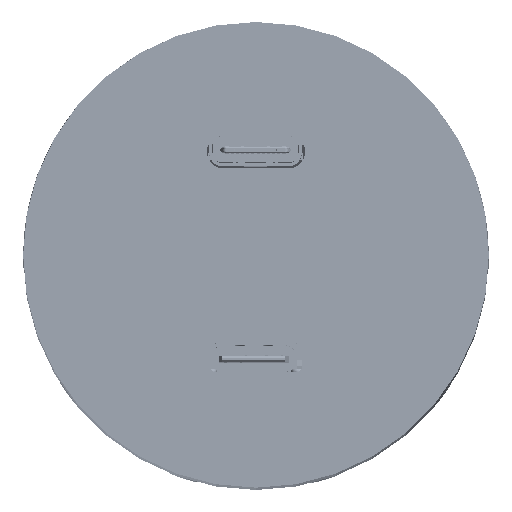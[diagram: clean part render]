
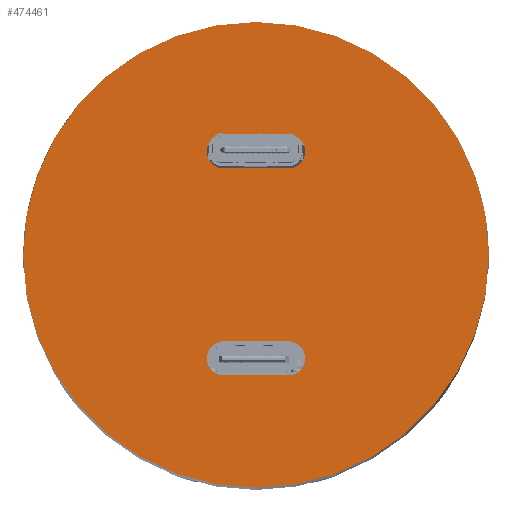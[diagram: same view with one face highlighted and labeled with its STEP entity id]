
A CAD part, top view. The second image highlights one B-rep face of the part: STEP entity #474461.
In plain terms, the highlighted planar face has unit normal (0, 0, 1).
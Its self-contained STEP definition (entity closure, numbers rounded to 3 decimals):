
#1333 = EDGE_LOOP ( 'NONE', ( #45374, #473580 ) ) ;
#3378 = EDGE_CURVE ( 'NONE', #88861, #44773, #229803, .T. ) ;
#4240 = AXIS2_PLACEMENT_3D ( 'NONE', #134832, #243649, #215743 ) ;
#6730 = DIRECTION ( 'NONE',  ( 1., 0., 0. ) ) ;
#9607 = CARTESIAN_POINT ( 'NONE',  ( -3.1, -10., 80. ) ) ;
#10325 = CARTESIAN_POINT ( 'NONE',  ( 3.1, -11.65, 80. ) ) ;
#10542 = DIRECTION ( 'NONE',  ( 1., 0., 0. ) ) ;
#18189 = VECTOR ( 'NONE', #95882, 1000. ) ;
#19918 = ORIENTED_EDGE ( 'NONE', *, *, #71815, .F. ) ;
#23107 = ORIENTED_EDGE ( 'NONE', *, *, #400628, .F. ) ;
#34370 = CARTESIAN_POINT ( 'NONE',  ( 0., 0., 80. ) ) ;
#35070 = ORIENTED_EDGE ( 'NONE', *, *, #88401, .T. ) ;
#44773 = VERTEX_POINT ( 'NONE', #463721 ) ;
#45374 = ORIENTED_EDGE ( 'NONE', *, *, #256646, .T. ) ;
#46226 = AXIS2_PLACEMENT_3D ( 'NONE', #323500, #90805, #247625 ) ;
#47104 = VERTEX_POINT ( 'NONE', #191374 ) ;
#53379 = DIRECTION ( 'NONE',  ( 0., 0., 1. ) ) ;
#58003 = LINE ( 'NONE', #442500, #18189 ) ;
#65245 = EDGE_CURVE ( 'NONE', #274740, #292082, #493456, .T. ) ;
#68090 = DIRECTION ( 'NONE',  ( 0., 0., -1. ) ) ;
#71815 = EDGE_CURVE ( 'NONE', #167610, #447519, #176568, .T. ) ;
#84865 = DIRECTION ( 'NONE',  ( 1., 0., 0. ) ) ;
#87667 = VERTEX_POINT ( 'NONE', #280114 ) ;
#88401 = EDGE_CURVE ( 'NONE', #397462, #274740, #346927, .T. ) ;
#88861 = VERTEX_POINT ( 'NONE', #234234 ) ;
#89375 = AXIS2_PLACEMENT_3D ( 'NONE', #181883, #68090, #338708 ) ;
#90805 = DIRECTION ( 'NONE',  ( 0., 0., 1. ) ) ;
#92324 = CARTESIAN_POINT ( 'NONE',  ( 3.1, 8.35, 80. ) ) ;
#95882 = DIRECTION ( 'NONE',  ( 1., 0., 0. ) ) ;
#102188 = EDGE_LOOP ( 'NONE', ( #396544, #35070, #396032, #411198, #194072 ) ) ;
#108393 = AXIS2_PLACEMENT_3D ( 'NONE', #9607, #239629, #394024 ) ;
#119443 = DIRECTION ( 'NONE',  ( 1., 0., 0. ) ) ;
#132067 = CIRCLE ( 'NONE', #164590, 1.65 ) ;
#134832 = CARTESIAN_POINT ( 'NONE',  ( 0., 0., 80. ) ) ;
#136420 = EDGE_LOOP ( 'NONE', ( #307514, #23107, #153198, #461509, #19918 ) ) ;
#143071 = FACE_BOUND ( 'NONE', #136420, .T. ) ;
#145276 = VERTEX_POINT ( 'NONE', #492861 ) ;
#149177 = AXIS2_PLACEMENT_3D ( 'NONE', #245509, #53379, #10542 ) ;
#153198 = ORIENTED_EDGE ( 'NONE', *, *, #157162, .F. ) ;
#157162 = EDGE_CURVE ( 'NONE', #87667, #255445, #324856, .T. ) ;
#160694 = AXIS2_PLACEMENT_3D ( 'NONE', #204866, #326191, #252762 ) ;
#163278 = LINE ( 'NONE', #92324, #454468 ) ;
#164590 = AXIS2_PLACEMENT_3D ( 'NONE', #353102, #360541, #84865 ) ;
#167610 = VERTEX_POINT ( 'NONE', #215513 ) ;
#176568 = CIRCLE ( 'NONE', #160694, 1.65 ) ;
#181025 = DIRECTION ( 'NONE',  ( 0., 0., 1. ) ) ;
#181883 = CARTESIAN_POINT ( 'NONE',  ( 3.1, -10., 80. ) ) ;
#185985 = FACE_OUTER_BOUND ( 'NONE', #1333, .T. ) ;
#191052 = EDGE_CURVE ( 'NONE', #44773, #397462, #58003, .T. ) ;
#191374 = CARTESIAN_POINT ( 'NONE',  ( 22.5, 0., 80. ) ) ;
#194072 = ORIENTED_EDGE ( 'NONE', *, *, #3378, .T. ) ;
#194772 = CARTESIAN_POINT ( 'NONE',  ( 3.1, -11.65, 80. ) ) ;
#204866 = CARTESIAN_POINT ( 'NONE',  ( 3.1, 10., 80. ) ) ;
#215513 = CARTESIAN_POINT ( 'NONE',  ( 3.1, 8.35, 80. ) ) ;
#215743 = DIRECTION ( 'NONE',  ( 1., 0., 0. ) ) ;
#222135 = CIRCLE ( 'NONE', #4240, 22.5 ) ;
#223946 = EDGE_CURVE ( 'NONE', #292082, #88861, #132067, .T. ) ;
#229803 = CIRCLE ( 'NONE', #108393, 1.65 ) ;
#232114 = CIRCLE ( 'NONE', #46226, 22.5 ) ;
#234234 = CARTESIAN_POINT ( 'NONE',  ( -4.75, -10., 80. ) ) ;
#239629 = DIRECTION ( 'NONE',  ( 0., 0., -1. ) ) ;
#243446 = CARTESIAN_POINT ( 'NONE',  ( -4.75, 10., 80. ) ) ;
#243649 = DIRECTION ( 'NONE',  ( 0., 0., 1. ) ) ;
#245509 = CARTESIAN_POINT ( 'NONE',  ( -3.1, 10., 80. ) ) ;
#247625 = DIRECTION ( 'NONE',  ( 1., 0., 0. ) ) ;
#252762 = DIRECTION ( 'NONE',  ( 1., 0., 0. ) ) ;
#255445 = VERTEX_POINT ( 'NONE', #243446 ) ;
#256646 = EDGE_CURVE ( 'NONE', #145276, #47104, #232114, .T. ) ;
#258207 = CARTESIAN_POINT ( 'NONE',  ( 3.1, 11.65, 80. ) ) ;
#261936 = FACE_BOUND ( 'NONE', #102188, .T. ) ;
#266113 = EDGE_CURVE ( 'NONE', #447519, #87667, #348503, .T. ) ;
#274740 = VERTEX_POINT ( 'NONE', #10325 ) ;
#277962 = AXIS2_PLACEMENT_3D ( 'NONE', #34370, #181025, #119443 ) ;
#280114 = CARTESIAN_POINT ( 'NONE',  ( -3.1, 11.65, 80. ) ) ;
#287304 = DIRECTION ( 'NONE',  ( 0., 0., 1. ) ) ;
#292082 = VERTEX_POINT ( 'NONE', #446941 ) ;
#306140 = DIRECTION ( 'NONE',  ( -1., 0., 0. ) ) ;
#306818 = EDGE_CURVE ( 'NONE', #47104, #145276, #222135, .T. ) ;
#307514 = ORIENTED_EDGE ( 'NONE', *, *, #446999, .F. ) ;
#315828 = AXIS2_PLACEMENT_3D ( 'NONE', #441652, #287304, #370762 ) ;
#323500 = CARTESIAN_POINT ( 'NONE',  ( 0., 0., 80. ) ) ;
#324856 = CIRCLE ( 'NONE', #315828, 1.65 ) ;
#326191 = DIRECTION ( 'NONE',  ( 0., 0., 1. ) ) ;
#335340 = PLANE ( 'NONE',  #277962 ) ;
#338708 = DIRECTION ( 'NONE',  ( 1., 0., 0. ) ) ;
#346927 = CIRCLE ( 'NONE', #89375, 1.65 ) ;
#348503 = LINE ( 'NONE', #258207, #487711 ) ;
#353102 = CARTESIAN_POINT ( 'NONE',  ( -3.1, -10., 80. ) ) ;
#360541 = DIRECTION ( 'NONE',  ( 0., 0., -1. ) ) ;
#367376 = CIRCLE ( 'NONE', #149177, 1.65 ) ;
#370762 = DIRECTION ( 'NONE',  ( 1., 0., 0. ) ) ;
#390680 = CARTESIAN_POINT ( 'NONE',  ( -3.1, 8.35, 80. ) ) ;
#394024 = DIRECTION ( 'NONE',  ( 1., 0., 0. ) ) ;
#396032 = ORIENTED_EDGE ( 'NONE', *, *, #65245, .T. ) ;
#396544 = ORIENTED_EDGE ( 'NONE', *, *, #191052, .T. ) ;
#397462 = VERTEX_POINT ( 'NONE', #412881 ) ;
#400628 = EDGE_CURVE ( 'NONE', #255445, #483693, #367376, .T. ) ;
#411198 = ORIENTED_EDGE ( 'NONE', *, *, #223946, .T. ) ;
#412881 = CARTESIAN_POINT ( 'NONE',  ( 3.1, -8.35, 80. ) ) ;
#432181 = VECTOR ( 'NONE', #306140, 1000. ) ;
#441652 = CARTESIAN_POINT ( 'NONE',  ( -3.1, 10., 80. ) ) ;
#442500 = CARTESIAN_POINT ( 'NONE',  ( 3.1, -8.35, 80. ) ) ;
#446941 = CARTESIAN_POINT ( 'NONE',  ( -3.1, -11.65, 80. ) ) ;
#446999 = EDGE_CURVE ( 'NONE', #483693, #167610, #163278, .T. ) ;
#447519 = VERTEX_POINT ( 'NONE', #470689 ) ;
#454468 = VECTOR ( 'NONE', #6730, 1000. ) ;
#459870 = DIRECTION ( 'NONE',  ( -1., 0., 0. ) ) ;
#461509 = ORIENTED_EDGE ( 'NONE', *, *, #266113, .F. ) ;
#463721 = CARTESIAN_POINT ( 'NONE',  ( -3.1, -8.35, 80. ) ) ;
#470689 = CARTESIAN_POINT ( 'NONE',  ( 3.1, 11.65, 80. ) ) ;
#473580 = ORIENTED_EDGE ( 'NONE', *, *, #306818, .T. ) ;
#474461 = ADVANCED_FACE ( 'NONE', ( #261936, #185985, #143071 ), #335340, .T. ) ;
#483693 = VERTEX_POINT ( 'NONE', #390680 ) ;
#487711 = VECTOR ( 'NONE', #459870, 1000. ) ;
#492861 = CARTESIAN_POINT ( 'NONE',  ( -22.5, 0., 80. ) ) ;
#493456 = LINE ( 'NONE', #194772, #432181 ) ;
